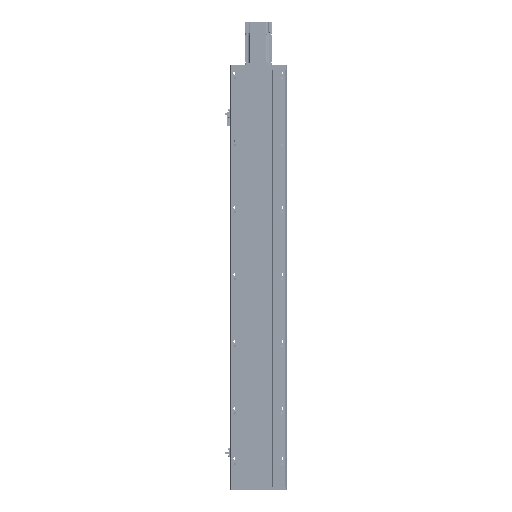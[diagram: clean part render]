
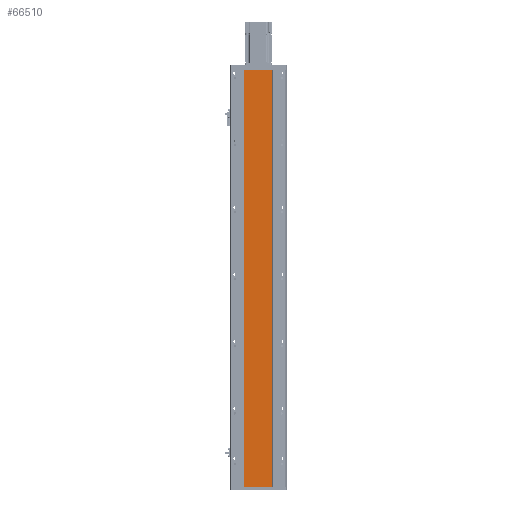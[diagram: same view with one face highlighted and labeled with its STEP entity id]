
A CAD part, front view. The second image highlights one B-rep face of the part: STEP entity #66510.
In plain terms, the highlighted planar face has unit normal (0, -1, 0).
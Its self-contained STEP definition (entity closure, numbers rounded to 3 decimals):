
#408 = DIRECTION ( 'NONE',  ( 0., 0., -1. ) ) ;
#1537 = EDGE_CURVE ( 'NONE', #95572, #42056, #74902, .T. ) ;
#2901 = LINE ( 'NONE', #45745, #5482 ) ;
#3681 = ORIENTED_EDGE ( 'NONE', *, *, #19765, .F. ) ;
#4850 = CARTESIAN_POINT ( 'NONE',  ( -42., 0., -1245. ) ) ;
#5482 = VECTOR ( 'NONE', #104571, 1000. ) ;
#6439 = CARTESIAN_POINT ( 'NONE',  ( -42., 0., 0. ) ) ;
#7329 = VECTOR ( 'NONE', #33507, 1000. ) ;
#9794 = VECTOR ( 'NONE', #72886, 1000. ) ;
#16713 = VERTEX_POINT ( 'NONE', #105922 ) ;
#16891 = CARTESIAN_POINT ( 'NONE',  ( -42., 0., -1245. ) ) ;
#19765 = EDGE_CURVE ( 'NONE', #16713, #95572, #2901, .T. ) ;
#25036 = CARTESIAN_POINT ( 'NONE',  ( 42., 0., -1245. ) ) ;
#33507 = DIRECTION ( 'NONE',  ( 0., 0., 1. ) ) ;
#33884 = PLANE ( 'NONE',  #74288 ) ;
#35013 = LINE ( 'NONE', #25036, #7329 ) ;
#36079 = ORIENTED_EDGE ( 'NONE', *, *, #1537, .F. ) ;
#42056 = VERTEX_POINT ( 'NONE', #82945 ) ;
#42392 = ORIENTED_EDGE ( 'NONE', *, *, #91236, .T. ) ;
#45745 = CARTESIAN_POINT ( 'NONE',  ( -42., 0., -1245. ) ) ;
#46658 = ORIENTED_EDGE ( 'NONE', *, *, #95534, .T. ) ;
#47832 = CARTESIAN_POINT ( 'NONE',  ( -42., 0., 0. ) ) ;
#50686 = DIRECTION ( 'NONE',  ( 0., -1., 0. ) ) ;
#54503 = LINE ( 'NONE', #4850, #9794 ) ;
#60491 = FACE_OUTER_BOUND ( 'NONE', #102661, .T. ) ;
#65323 = VERTEX_POINT ( 'NONE', #81566 ) ;
#66510 = ADVANCED_FACE ( 'NONE', ( #60491 ), #33884, .T. ) ;
#72229 = VECTOR ( 'NONE', #73736, 1000. ) ;
#72886 = DIRECTION ( 'NONE',  ( 1., 0., 0. ) ) ;
#73736 = DIRECTION ( 'NONE',  ( 1., 0., 0. ) ) ;
#74288 = AXIS2_PLACEMENT_3D ( 'NONE', #16891, #50686, #408 ) ;
#74902 = LINE ( 'NONE', #6439, #72229 ) ;
#81566 = CARTESIAN_POINT ( 'NONE',  ( 42., 0., -1245. ) ) ;
#82945 = CARTESIAN_POINT ( 'NONE',  ( 42., 0., 0. ) ) ;
#91236 = EDGE_CURVE ( 'NONE', #65323, #42056, #35013, .T. ) ;
#95534 = EDGE_CURVE ( 'NONE', #16713, #65323, #54503, .T. ) ;
#95572 = VERTEX_POINT ( 'NONE', #47832 ) ;
#102661 = EDGE_LOOP ( 'NONE', ( #36079, #3681, #46658, #42392 ) ) ;
#104571 = DIRECTION ( 'NONE',  ( 0., 0., 1. ) ) ;
#105922 = CARTESIAN_POINT ( 'NONE',  ( -42., 0., -1245. ) ) ;
